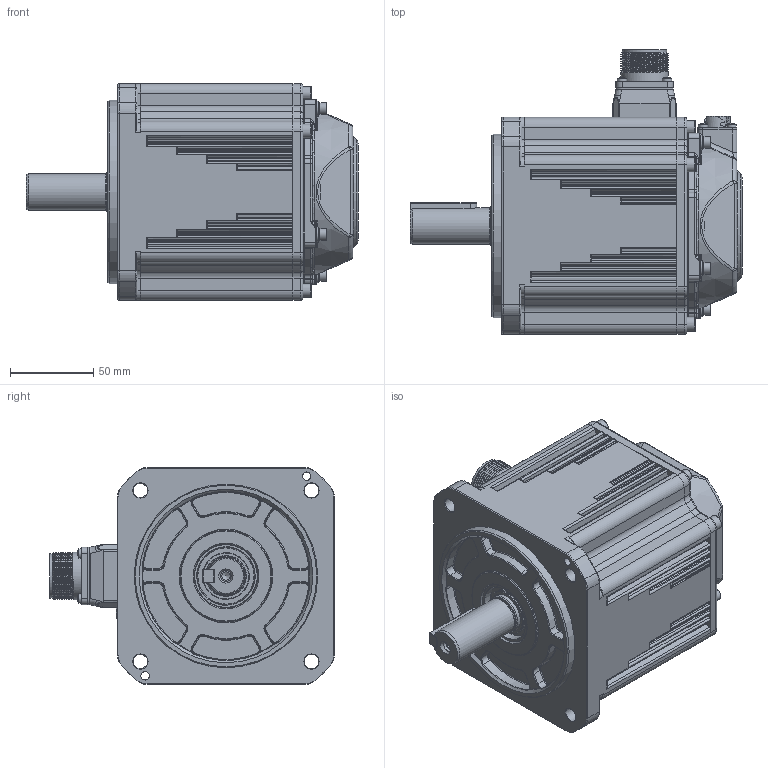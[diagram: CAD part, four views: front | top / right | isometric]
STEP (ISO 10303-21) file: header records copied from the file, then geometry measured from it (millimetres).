
FILE_DESCRIPTION (( 'STEP AP203' ), '1' );
FILE_NAME ('俋倛芞ACM2M-1313.STEP', '2023-01-10T03:56:23', ( '' ), ( '' ), 'SwSTEP 2.0', 'SolidWorks 2021', '' );
FILE_SCHEMA (( 'CONFIG_CONTROL_DESIGN' ));
Length unit declared in the file: millimetre
Products named in the file (12): ﾓﾍｷ筌ｻTC｣ｻ24｡ﾁ38｡ﾁ7｣ｻSOG; 航插动力接插件 4芯 SZ RoHS; 綴傷裔蹟隊_M5℅20; 130后端盖 卡簧式 高30.9 ADC12 LM RoHS_加工; 130蛌粣09-XX 粣扥耳22 40Cr DC RoHS_LX晤鎢ん; 130前端盖0.85、1.3、1.8_成品-1.3; 2M-编码盖+插座+螺钉; C型平键8×7×45螺纹拆卸型; 萇埭脣釱蹟隊_M3℅10; 130航插安装座密封垫 38.6×36.6×1.35 NBR HA70 RoHS; 俋倛芞ACM2M-1313; 130瑤脣假蚾釱
Assembly tree (17 placements, depth 2):
  俋倛芞ACM2M-1313
    130前端盖0.85、1.3、1.8_成品-1.3
    130蛌粣09-XX 粣扥耳22 40Cr DC RoHS_LX晤鎢ん
    130后端盖 卡簧式 高30.9 ADC12 LM RoHS_加工
    綴傷裔蹟隊_M5℅20  x4
    130瑤脣假蚾釱
    130航插安装座密封垫 38.6×36.6×1.35 NBR HA70 RoHS
    航插动力接插件 4芯 SZ RoHS
    萇埭脣釱蹟隊_M3℅10  x4
    ﾓﾍｷ筌ｻTC｣ｻ24｡ﾁ38｡ﾁ7｣ｻSOG
    C型平键8×7×45螺纹拆卸型
    2M-编码盖+插座+螺钉
Bounding box: 199 x 170.7 x 130 mm (x, y, z)
Volume: 2255134.9 mm3; surface area: 224080.9 mm2
Topology: 36 solids, 43 shells, 2908 faces, 7542 edges, 4767 vertices
Faces by surface type: plane 1355, cylinder 791, torus 374, bspline 282, cone 81, sphere 25
Full cylindrical faces by diameter (mm): 0.75 x10, 1.007 x10, 1.5 x9, 2 x1, 2.2 x2, 2.4 x4, 2.48 x4, 2.5 x8, 2.598 x8, 2.6 x2, 3 x9, 3.08 x1, 3.2 x12, 3.3 x5, 3.5 x4, 3.7 x4, 3.9 x4, 4 x4, 4.2 x4, 4.5 x8, 5 x7, 5.5 x4, 5.6 x8, 6.4 x1, 7 x4, 8.5 x8, 9 x4, 11.8 x1, 13 x1, 13.2 x1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
Entity records: 112504 total; most frequent: CARTESIAN_POINT 47948, ORIENTED_EDGE 13398, DIRECTION 12273, EDGE_CURVE 6699, AXIS2_PLACEMENT_3D 4544, VERTEX_POINT 4429, EDGE_LOOP 3294, LINE 3185
